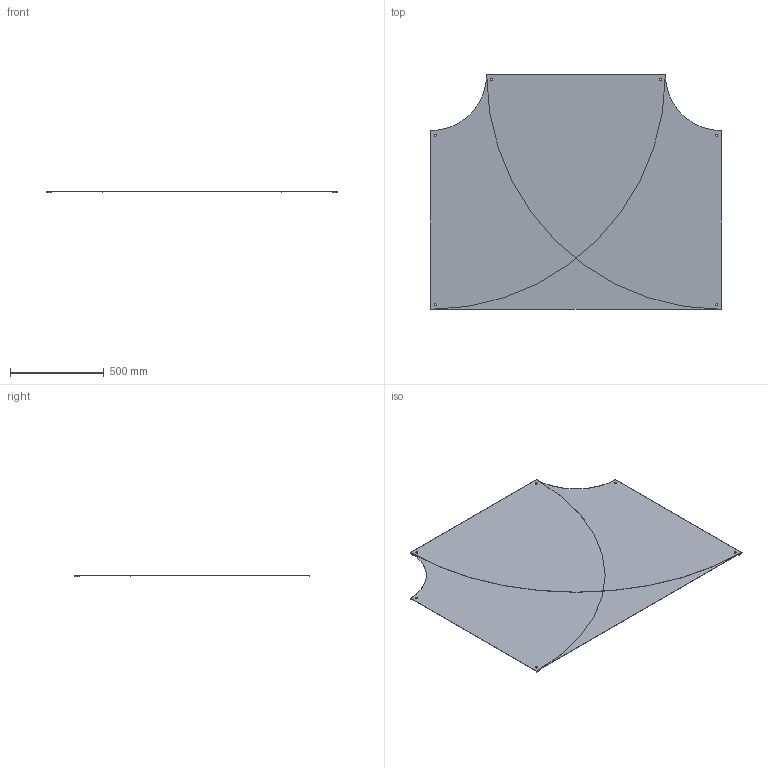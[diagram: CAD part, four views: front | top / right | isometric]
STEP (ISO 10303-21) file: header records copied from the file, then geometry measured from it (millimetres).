
FILE_DESCRIPTION(/* description */ ('','CAx-IF Rec.Pracs.---Representation and Presentation of Product Manufacturing Information (PMI)---4.0---2014-10-13'),/* implementation_level */ '2;1');
FILE_NAME(/* name */ 'Eurostrut_EETC900-300_Cover T-Piece for Cable Ladder ECL.step',/* time_stamp */ '2026-09-10T09:51:58+02:00',/* author */ (''),/* organization */ (''),/* preprocessor_version */ 'ST-DEVELOPER v20.1',/* originating_system */ 'Autodesk Revit 2027 27.2.0.39',/* authorisation */ '');
FILE_SCHEMA (('AP242_MANAGED_MODEL_BASED_3D_ENGINEERING_MIM_LF { 1 0 10303 442 2 1 4 }'));
Length unit declared in the file: millimetre
Products named in the file (7): TopLevelAssembly; Extrusion; Joined Solid Geometry; Joined Solid Geometry_1; Joined Solid Geometry_2; Joined Solid Geometry_3; Joined Solid Geometry_4
Assembly tree (6 placements, depth 2):
  TopLevelAssembly
    Extrusion
    Joined Solid Geometry
    Joined Solid Geometry_1
    Joined Solid Geometry_2
    Joined Solid Geometry_3
    Joined Solid Geometry_4
Bounding box: 1550 x 1251.5 x 9 mm (x, y, z)
Volume: 6180287.4 mm3; surface area: 8262670.8 mm2
Topology: 9 solids, 9 shells, 84 faces, 198 edges, 132 vertices
Faces by surface type: plane 42, cylinder 42
Entity records: 2630 total; most frequent: DIRECTION 476, CARTESIAN_POINT 427, ORIENTED_EDGE 396, EDGE_CURVE 198, AXIS2_PLACEMENT_3D 181, VERTEX_POINT 132, LINE 114, VECTOR 114
